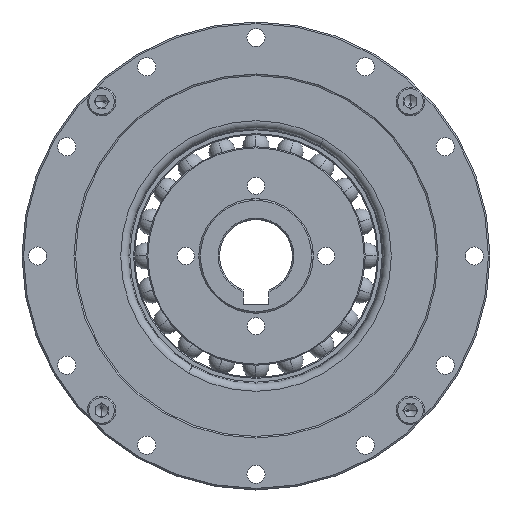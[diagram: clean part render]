
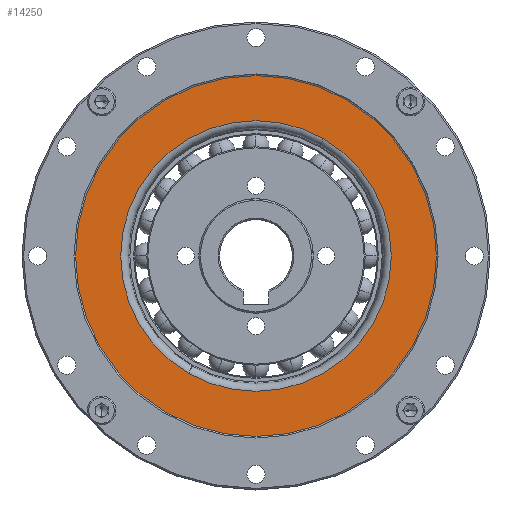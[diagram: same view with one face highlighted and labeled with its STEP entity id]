
A CAD part, front view. The second image highlights one B-rep face of the part: STEP entity #14250.
In plain terms, the highlighted planar face has unit normal (0, -1, 0).
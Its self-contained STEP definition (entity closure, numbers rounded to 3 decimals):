
#434 = DIRECTION ( 'NONE',  ( 0., 1., 0. ) ) ;
#565 = AXIS2_PLACEMENT_3D ( 'NONE', #6415, #7380, #6563 ) ;
#614 = DIRECTION ( 'NONE',  ( 0.5, 0., 0.866 ) ) ;
#960 = VERTEX_POINT ( 'NONE', #10292 ) ;
#1502 = VERTEX_POINT ( 'NONE', #11102 ) ;
#2107 = EDGE_LOOP ( 'NONE', ( #3287, #10870 ) ) ;
#2867 = EDGE_CURVE ( 'NONE', #3965, #7750, #14303, .T. ) ;
#3062 = EDGE_CURVE ( 'NONE', #1502, #960, #9925, .T. ) ;
#3273 = ORIENTED_EDGE ( 'NONE', *, *, #12687, .T. ) ;
#3287 = ORIENTED_EDGE ( 'NONE', *, *, #2867, .T. ) ;
#3965 = VERTEX_POINT ( 'NONE', #10379 ) ;
#5010 = AXIS2_PLACEMENT_3D ( 'NONE', #12048, #434, #6707 ) ;
#5043 = CARTESIAN_POINT ( 'NONE',  ( 0., -11.981, 70. ) ) ;
#5155 = CARTESIAN_POINT ( 'NONE',  ( 0., -11.981, 70. ) ) ;
#5332 = EDGE_CURVE ( 'NONE', #7750, #3965, #9228, .T. ) ;
#5444 = DIRECTION ( 'NONE',  ( 0., -1., 0. ) ) ;
#5533 = CIRCLE ( 'NONE', #7105, 26.025 ) ;
#6207 = DIRECTION ( 'NONE',  ( 0.5, 0., 0.866 ) ) ;
#6415 = CARTESIAN_POINT ( 'NONE',  ( 0., -11.981, 70. ) ) ;
#6426 = AXIS2_PLACEMENT_3D ( 'NONE', #5155, #7512, #614 ) ;
#6563 = DIRECTION ( 'NONE',  ( 0.5, 0., 0.866 ) ) ;
#6707 = DIRECTION ( 'NONE',  ( 0.5, 0., 0.866 ) ) ;
#6819 = DIRECTION ( 'NONE',  ( 0.5, 0., 0.866 ) ) ;
#7105 = AXIS2_PLACEMENT_3D ( 'NONE', #5043, #13242, #6207 ) ;
#7380 = DIRECTION ( 'NONE',  ( 0., -1., 0. ) ) ;
#7462 = AXIS2_PLACEMENT_3D ( 'NONE', #10250, #5444, #6819 ) ;
#7512 = DIRECTION ( 'NONE',  ( 0., -1., 0. ) ) ;
#7750 = VERTEX_POINT ( 'NONE', #11115 ) ;
#9228 = CIRCLE ( 'NONE', #565, 34.7 ) ;
#9812 = PLANE ( 'NONE',  #6426 ) ;
#9925 = CIRCLE ( 'NONE', #5010, 26.025 ) ;
#10250 = CARTESIAN_POINT ( 'NONE',  ( 0., -11.981, 70. ) ) ;
#10292 = CARTESIAN_POINT ( 'NONE',  ( -13.013, -11.981, 47.462 ) ) ;
#10372 = EDGE_LOOP ( 'NONE', ( #10714, #3273 ) ) ;
#10379 = CARTESIAN_POINT ( 'NONE',  ( 17.35, -11.981, 100.051 ) ) ;
#10714 = ORIENTED_EDGE ( 'NONE', *, *, #3062, .T. ) ;
#10870 = ORIENTED_EDGE ( 'NONE', *, *, #5332, .T. ) ;
#10928 = FACE_BOUND ( 'NONE', #10372, .T. ) ;
#11102 = CARTESIAN_POINT ( 'NONE',  ( 13.013, -11.981, 92.538 ) ) ;
#11115 = CARTESIAN_POINT ( 'NONE',  ( -17.35, -11.981, 39.949 ) ) ;
#12048 = CARTESIAN_POINT ( 'NONE',  ( 0., -11.981, 70. ) ) ;
#12687 = EDGE_CURVE ( 'NONE', #960, #1502, #5533, .T. ) ;
#13242 = DIRECTION ( 'NONE',  ( 0., 1., 0. ) ) ;
#14053 = FACE_OUTER_BOUND ( 'NONE', #2107, .T. ) ;
#14250 = ADVANCED_FACE ( 'NONE', ( #14053, #10928 ), #9812, .T. ) ;
#14303 = CIRCLE ( 'NONE', #7462, 34.7 ) ;
